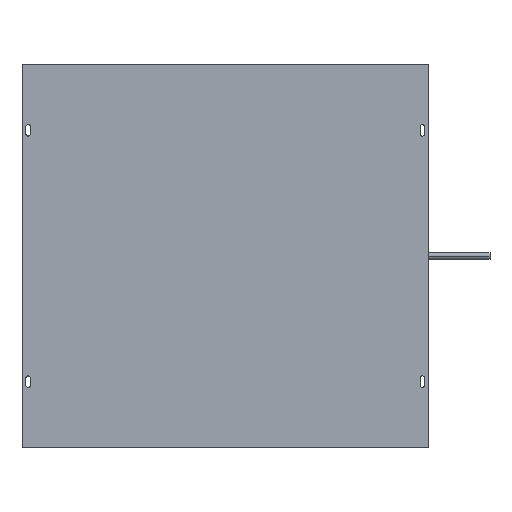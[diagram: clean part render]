
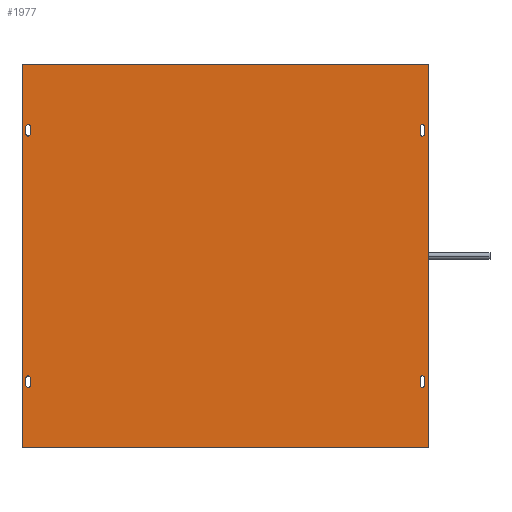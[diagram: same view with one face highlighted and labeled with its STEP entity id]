
A CAD part, front view. The second image highlights one B-rep face of the part: STEP entity #1977.
In plain terms, the highlighted planar face has unit normal (0, -1, 0).
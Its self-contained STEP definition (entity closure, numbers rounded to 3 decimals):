
#511=DIRECTION('',(0.,0.,-1.));
#512=VECTOR('',#511,314.);
#513=CARTESIAN_POINT('',(-166.5,-5.,157.));
#514=LINE('',#513,#512);
#515=DIRECTION('',(-1.,0.,0.));
#516=VECTOR('',#515,333.);
#517=CARTESIAN_POINT('',(166.5,-5.,157.));
#518=LINE('',#517,#516);
#519=DIRECTION('',(0.,0.,1.));
#520=VECTOR('',#519,314.);
#521=CARTESIAN_POINT('',(166.5,-5.,-157.));
#522=LINE('',#521,#520);
#523=DIRECTION('',(1.,0.,0.));
#524=VECTOR('',#523,333.);
#525=CARTESIAN_POINT('',(-166.5,-5.,-157.));
#526=LINE('',#525,#524);
#527=DIRECTION('',(0.,0.,-1.));
#528=VECTOR('',#527,6.);
#529=CARTESIAN_POINT('',(-159.75,-5.,106.));
#530=LINE('',#529,#528);
#531=CARTESIAN_POINT('',(-161.5,-5.,106.));
#532=DIRECTION('',(0.,1.,0.));
#533=DIRECTION('',(-1.,0.,0.));
#534=AXIS2_PLACEMENT_3D('',#531,#532,#533);
#536=DIRECTION('',(0.,0.,1.));
#537=VECTOR('',#536,6.);
#538=CARTESIAN_POINT('',(-163.25,-5.,100.));
#539=LINE('',#538,#537);
#540=CARTESIAN_POINT('',(-161.5,-5.,100.));
#541=DIRECTION('',(0.,1.,0.));
#542=DIRECTION('',(1.,0.,0.));
#543=AXIS2_PLACEMENT_3D('',#540,#541,#542);
#545=CARTESIAN_POINT('',(-161.5,-5.,-106.));
#546=DIRECTION('',(0.,1.,0.));
#547=DIRECTION('',(1.,0.,0.));
#548=AXIS2_PLACEMENT_3D('',#545,#546,#547);
#550=DIRECTION('',(0.,0.,-1.));
#551=VECTOR('',#550,6.);
#552=CARTESIAN_POINT('',(-159.75,-5.,-100.));
#553=LINE('',#552,#551);
#554=CARTESIAN_POINT('',(-161.5,-5.,-100.));
#555=DIRECTION('',(0.,1.,0.));
#556=DIRECTION('',(-1.,0.,0.));
#557=AXIS2_PLACEMENT_3D('',#554,#555,#556);
#559=DIRECTION('',(0.,0.,1.));
#560=VECTOR('',#559,6.);
#561=CARTESIAN_POINT('',(-163.25,-5.,-106.));
#562=LINE('',#561,#560);
#563=CARTESIAN_POINT('',(161.5,-5.,106.));
#564=DIRECTION('',(0.,1.,0.));
#565=DIRECTION('',(-1.,0.,0.));
#566=AXIS2_PLACEMENT_3D('',#563,#564,#565);
#568=DIRECTION('',(0.,0.,1.));
#569=VECTOR('',#568,6.);
#570=CARTESIAN_POINT('',(159.75,-5.,100.));
#571=LINE('',#570,#569);
#572=CARTESIAN_POINT('',(161.5,-5.,100.));
#573=DIRECTION('',(0.,1.,0.));
#574=DIRECTION('',(1.,0.,0.));
#575=AXIS2_PLACEMENT_3D('',#572,#573,#574);
#577=DIRECTION('',(0.,0.,-1.));
#578=VECTOR('',#577,6.);
#579=CARTESIAN_POINT('',(163.25,-5.,106.));
#580=LINE('',#579,#578);
#581=DIRECTION('',(0.,0.,1.));
#582=VECTOR('',#581,6.);
#583=CARTESIAN_POINT('',(159.75,-5.,-106.));
#584=LINE('',#583,#582);
#585=CARTESIAN_POINT('',(161.5,-5.,-106.));
#586=DIRECTION('',(0.,1.,0.));
#587=DIRECTION('',(1.,0.,0.));
#588=AXIS2_PLACEMENT_3D('',#585,#586,#587);
#590=DIRECTION('',(0.,0.,-1.));
#591=VECTOR('',#590,6.);
#592=CARTESIAN_POINT('',(163.25,-5.,-100.));
#593=LINE('',#592,#591);
#594=CARTESIAN_POINT('',(161.5,-5.,-100.));
#595=DIRECTION('',(0.,1.,0.));
#596=DIRECTION('',(-1.,0.,0.));
#597=AXIS2_PLACEMENT_3D('',#594,#595,#596);
#1193=CARTESIAN_POINT('',(-166.5,-5.,157.));
#1194=CARTESIAN_POINT('',(-166.5,-5.,-157.));
#1195=VERTEX_POINT('',#1193);
#1196=VERTEX_POINT('',#1194);
#1197=CARTESIAN_POINT('',(166.5,-5.,-157.));
#1198=VERTEX_POINT('',#1197);
#1199=CARTESIAN_POINT('',(166.5,-5.,157.));
#1200=VERTEX_POINT('',#1199);
#1217=CARTESIAN_POINT('',(-159.75,-5.,106.));
#1218=CARTESIAN_POINT('',(-159.75,-5.,100.));
#1219=VERTEX_POINT('',#1217);
#1220=VERTEX_POINT('',#1218);
#1221=CARTESIAN_POINT('',(-163.25,-5.,100.));
#1222=VERTEX_POINT('',#1221);
#1223=CARTESIAN_POINT('',(-163.25,-5.,106.));
#1224=VERTEX_POINT('',#1223);
#1249=CARTESIAN_POINT('',(-159.75,-5.,-106.));
#1250=CARTESIAN_POINT('',(-163.25,-5.,-106.));
#1251=VERTEX_POINT('',#1249);
#1252=VERTEX_POINT('',#1250);
#1253=CARTESIAN_POINT('',(-163.25,-5.,-100.));
#1254=VERTEX_POINT('',#1253);
#1255=CARTESIAN_POINT('',(-159.75,-5.,-100.));
#1256=VERTEX_POINT('',#1255);
#1257=CARTESIAN_POINT('',(159.75,-5.,106.));
#1258=CARTESIAN_POINT('',(163.25,-5.,106.));
#1259=VERTEX_POINT('',#1257);
#1260=VERTEX_POINT('',#1258);
#1261=CARTESIAN_POINT('',(163.25,-5.,100.));
#1262=VERTEX_POINT('',#1261);
#1263=CARTESIAN_POINT('',(159.75,-5.,100.));
#1264=VERTEX_POINT('',#1263);
#1265=CARTESIAN_POINT('',(159.75,-5.,-106.));
#1266=CARTESIAN_POINT('',(159.75,-5.,-100.));
#1267=VERTEX_POINT('',#1265);
#1268=VERTEX_POINT('',#1266);
#1269=CARTESIAN_POINT('',(163.25,-5.,-100.));
#1270=VERTEX_POINT('',#1269);
#1271=CARTESIAN_POINT('',(163.25,-5.,-106.));
#1272=VERTEX_POINT('',#1271);
#1928=CARTESIAN_POINT('',(0.,-5.,0.));
#1929=DIRECTION('',(0.,-1.,0.));
#1930=DIRECTION('',(1.,0.,0.));
#1931=AXIS2_PLACEMENT_3D('',#1928,#1929,#1930);
#1932=PLANE('',#1931);
#1934=ORIENTED_EDGE('',*,*,#1933,.F.);
#1935=ORIENTED_EDGE('',*,*,#1372,.F.);
#1937=ORIENTED_EDGE('',*,*,#1936,.F.);
#1938=ORIENTED_EDGE('',*,*,#1650,.F.);
#1939=EDGE_LOOP('',(#1934,#1935,#1937,#1938));
#1940=FACE_OUTER_BOUND('',#1939,.F.);
#1941=ORIENTED_EDGE('',*,*,#1880,.F.);
#1942=ORIENTED_EDGE('',*,*,#1895,.F.);
#1943=ORIENTED_EDGE('',*,*,#1909,.F.);
#1944=ORIENTED_EDGE('',*,*,#1922,.F.);
#1945=EDGE_LOOP('',(#1941,#1942,#1943,#1944));
#1946=FACE_BOUND('',#1945,.F.);
#1948=ORIENTED_EDGE('',*,*,#1947,.F.);
#1950=ORIENTED_EDGE('',*,*,#1949,.F.);
#1952=ORIENTED_EDGE('',*,*,#1951,.F.);
#1954=ORIENTED_EDGE('',*,*,#1953,.F.);
#1955=EDGE_LOOP('',(#1948,#1950,#1952,#1954));
#1956=FACE_BOUND('',#1955,.F.);
#1958=ORIENTED_EDGE('',*,*,#1957,.F.);
#1960=ORIENTED_EDGE('',*,*,#1959,.F.);
#1962=ORIENTED_EDGE('',*,*,#1961,.F.);
#1964=ORIENTED_EDGE('',*,*,#1963,.F.);
#1965=EDGE_LOOP('',(#1958,#1960,#1962,#1964));
#1966=FACE_BOUND('',#1965,.F.);
#1968=ORIENTED_EDGE('',*,*,#1967,.F.);
#1970=ORIENTED_EDGE('',*,*,#1969,.F.);
#1972=ORIENTED_EDGE('',*,*,#1971,.F.);
#1974=ORIENTED_EDGE('',*,*,#1973,.F.);
#1975=EDGE_LOOP('',(#1968,#1970,#1972,#1974));
#1976=FACE_BOUND('',#1975,.F.);
#535=CIRCLE('',#534,1.75);
#544=CIRCLE('',#543,1.75);
#549=CIRCLE('',#548,1.75);
#558=CIRCLE('',#557,1.75);
#567=CIRCLE('',#566,1.75);
#576=CIRCLE('',#575,1.75);
#589=CIRCLE('',#588,1.75);
#598=CIRCLE('',#597,1.75);
#1372=EDGE_CURVE('',#1200,#1195,#518,.T.);
#1650=EDGE_CURVE('',#1196,#1198,#526,.T.);
#1880=EDGE_CURVE('',#1219,#1220,#530,.T.);
#1895=EDGE_CURVE('',#1224,#1219,#535,.T.);
#1909=EDGE_CURVE('',#1222,#1224,#539,.T.);
#1922=EDGE_CURVE('',#1220,#1222,#544,.T.);
#1933=EDGE_CURVE('',#1195,#1196,#514,.T.);
#1936=EDGE_CURVE('',#1198,#1200,#522,.T.);
#1947=EDGE_CURVE('',#1251,#1252,#549,.T.);
#1949=EDGE_CURVE('',#1256,#1251,#553,.T.);
#1951=EDGE_CURVE('',#1254,#1256,#558,.T.);
#1953=EDGE_CURVE('',#1252,#1254,#562,.T.);
#1957=EDGE_CURVE('',#1259,#1260,#567,.T.);
#1959=EDGE_CURVE('',#1264,#1259,#571,.T.);
#1961=EDGE_CURVE('',#1262,#1264,#576,.T.);
#1963=EDGE_CURVE('',#1260,#1262,#580,.T.);
#1967=EDGE_CURVE('',#1267,#1268,#584,.T.);
#1969=EDGE_CURVE('',#1272,#1267,#589,.T.);
#1971=EDGE_CURVE('',#1270,#1272,#593,.T.);
#1973=EDGE_CURVE('',#1268,#1270,#598,.T.);
#1977=ADVANCED_FACE('',(#1940,#1946,#1956,#1966,#1976),#1932,.T.);
